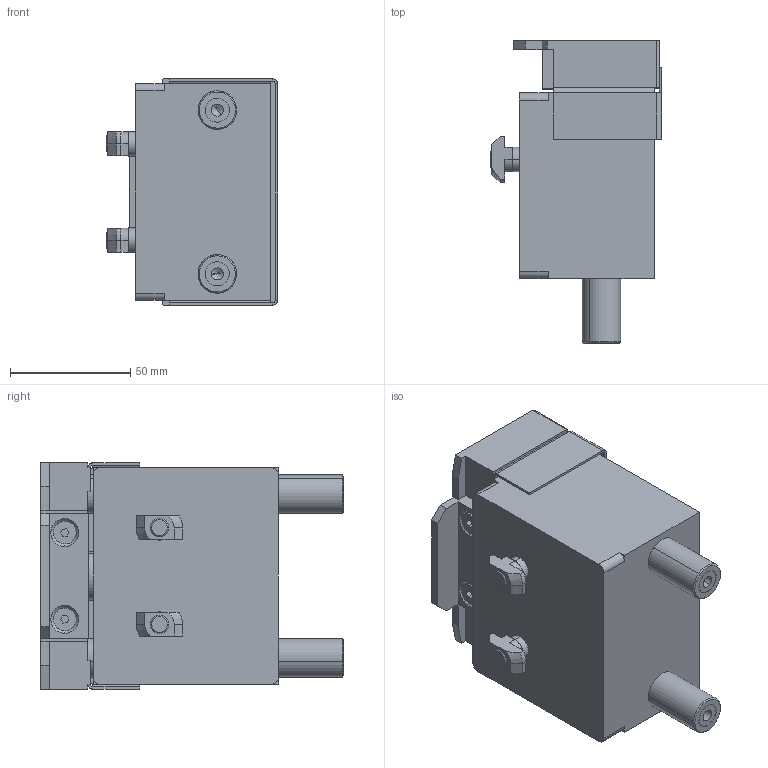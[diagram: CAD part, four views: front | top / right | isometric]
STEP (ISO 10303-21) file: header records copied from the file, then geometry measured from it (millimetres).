
FILE_DESCRIPTION (( 'STEP AP203' ), '1' );
FILE_NAME ('ASUTEC_ASMV-25-EW-17-100.STEP', '2017-02-11T21:02:12', ( '' ), ( '' ), 'SwSTEP 2.0', 'SolidWorks 2015', '' );
FILE_SCHEMA (( 'CONFIG_CONTROL_DESIGN' ));
Length unit declared in the file: millimetre
Products named in the file (1): ASUTEC_ASMV-25-EW-17-100
Bounding box: 71 x 125.6 x 94 mm (x, y, z)
Volume: 478295.9 mm3; surface area: 109069.1 mm2
Topology: 3 solids, 8 shells, 781 faces, 1946 edges, 1257 vertices
Faces by surface type: plane 416, cylinder 223, cone 83, bspline 51, torus 8
Entity records: 26685 total; most frequent: CARTESIAN_POINT 7946, ORIENTED_EDGE 3876, DIRECTION 3782, EDGE_CURVE 1938, AXIS2_PLACEMENT_3D 1275, VERTEX_POINT 1257, VECTOR 1232, LINE 1232
